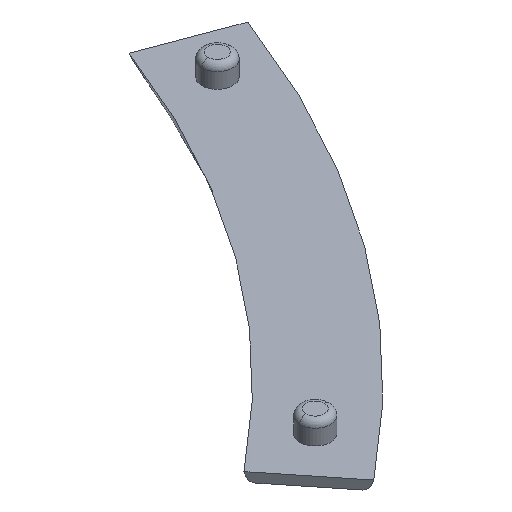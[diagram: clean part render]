
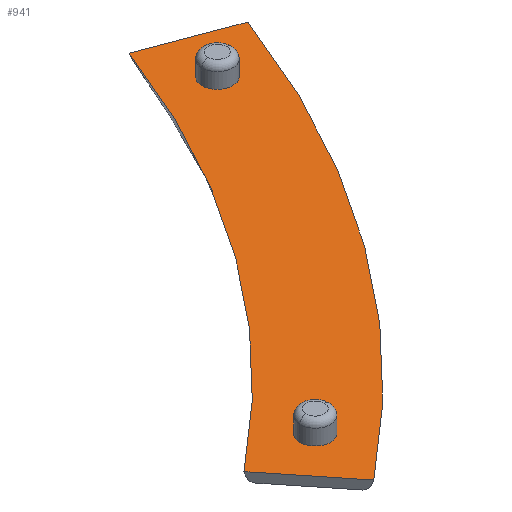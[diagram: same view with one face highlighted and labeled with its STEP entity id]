
A CAD part, isometric view. The second image highlights one B-rep face of the part: STEP entity #941.
In plain terms, the highlighted planar face has unit normal (0, 0, 1).
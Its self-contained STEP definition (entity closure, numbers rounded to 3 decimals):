
#835=VECTOR('Line Direction',#834,1.) ;
#882=VECTOR('Line Direction',#881,1.) ;
#806=DIRECTION('Axis2P3D Direction',(0.,0.,1.)) ;
#834=DIRECTION('Vector Direction',(-0.936,0.351,0.)) ;
#860=DIRECTION('Axis2P3D Direction',(0.,0.,1.)) ;
#881=DIRECTION('Vector Direction',(0.624,-0.782,0.)) ;
#895=DIRECTION('Axis2P3D Direction',(0.,0.,1.)) ;
#896=DIRECTION('Axis2P3D XDirection',(1.,0.,0.)) ;
#906=DIRECTION('Axis2P3D Direction',(0.,0.,1.)) ;
#915=DIRECTION('Axis2P3D Direction',(0.,0.,1.)) ;
#924=DIRECTION('Axis2P3D Direction',(0.,0.,1.)) ;
#933=DIRECTION('Axis2P3D Direction',(0.,0.,1.)) ;
#795=CARTESIAN_POINT('Vertex',(1222.19,-855.636,91.5)) ;
#802=CARTESIAN_POINT('Vertex',(1276.43,-780.981,91.5)) ;
#805=CARTESIAN_POINT('Axis2P3D Location',(1114.,-720.,91.5)) ;
#830=CARTESIAN_POINT('Vertex',(1262.387,-775.708,91.5)) ;
#833=CARTESIAN_POINT('Line Origine',(1269.409,-778.345,91.5)) ;
#856=CARTESIAN_POINT('Vertex',(1212.836,-843.91,91.5)) ;
#859=CARTESIAN_POINT('Axis2P3D Location',(1114.,-720.,91.5)) ;
#880=CARTESIAN_POINT('Line Origine',(1217.513,-849.773,91.5)) ;
#894=CARTESIAN_POINT('Axis2P3D Location',(0.,0.,91.5)) ;
#905=CARTESIAN_POINT('Axis2P3D Location',(1223.995,-844.327,91.5)) ;
#909=CARTESIAN_POINT('Vertex',(1221.495,-844.327,91.5)) ;
#911=CARTESIAN_POINT('Vertex',(1226.495,-844.327,91.5)) ;
#914=CARTESIAN_POINT('Axis2P3D Location',(1223.995,-844.327,91.5)) ;
#923=CARTESIAN_POINT('Axis2P3D Location',(1266.232,-786.192,91.5)) ;
#927=CARTESIAN_POINT('Vertex',(1263.732,-786.192,91.5)) ;
#929=CARTESIAN_POINT('Vertex',(1268.732,-786.192,91.5)) ;
#932=CARTESIAN_POINT('Axis2P3D Location',(1266.232,-786.192,91.5)) ;
#807=AXIS2_PLACEMENT_3D('Circle Axis2P3D',#805,#806,$) ;
#861=AXIS2_PLACEMENT_3D('Circle Axis2P3D',#859,#860,$) ;
#897=AXIS2_PLACEMENT_3D('Plane Axis2P3D',#894,#895,#896) ;
#907=AXIS2_PLACEMENT_3D('Circle Axis2P3D',#905,#906,$) ;
#916=AXIS2_PLACEMENT_3D('Circle Axis2P3D',#914,#915,$) ;
#925=AXIS2_PLACEMENT_3D('Circle Axis2P3D',#923,#924,$) ;
#934=AXIS2_PLACEMENT_3D('Circle Axis2P3D',#932,#933,$) ;
#922=FACE_BOUND('',#919,.T.) ;
#940=FACE_BOUND('',#937,.T.) ;
#809=EDGE_CURVE('',#796,#803,#808,.T.) ;
#837=EDGE_CURVE('',#803,#831,#836,.T.) ;
#863=EDGE_CURVE('',#831,#857,#862,.F.) ;
#884=EDGE_CURVE('',#857,#796,#883,.T.) ;
#913=EDGE_CURVE('',#910,#912,#908,.T.) ;
#918=EDGE_CURVE('',#912,#910,#917,.T.) ;
#931=EDGE_CURVE('',#928,#930,#926,.T.) ;
#936=EDGE_CURVE('',#930,#928,#935,.T.) ;
#898=PLANE('Plane',#897) ;
#900=ORIENTED_EDGE('',*,*,#809,.T.) ;
#901=ORIENTED_EDGE('',*,*,#837,.T.) ;
#902=ORIENTED_EDGE('',*,*,#863,.T.) ;
#903=ORIENTED_EDGE('',*,*,#884,.T.) ;
#920=ORIENTED_EDGE('',*,*,#913,.F.) ;
#921=ORIENTED_EDGE('',*,*,#918,.F.) ;
#938=ORIENTED_EDGE('',*,*,#931,.F.) ;
#939=ORIENTED_EDGE('',*,*,#936,.F.) ;
#836=LINE('Line',#833,#835) ;
#883=LINE('Line',#880,#882) ;
#941=ADVANCED_FACE('CNC 20240619',(#904,#922,#940),#898,.T.) ;
#808=CIRCLE('generated circle',#807,173.5) ;
#862=CIRCLE('generated circle',#861,158.5) ;
#908=CIRCLE('generated circle',#907,2.5) ;
#917=CIRCLE('generated circle',#916,2.5) ;
#926=CIRCLE('generated circle',#925,2.5) ;
#935=CIRCLE('generated circle',#934,2.5) ;
#796=VERTEX_POINT('',#795) ;
#803=VERTEX_POINT('',#802) ;
#831=VERTEX_POINT('',#830) ;
#857=VERTEX_POINT('',#856) ;
#910=VERTEX_POINT('',#909) ;
#912=VERTEX_POINT('',#911) ;
#928=VERTEX_POINT('',#927) ;
#930=VERTEX_POINT('',#929) ;
#899=EDGE_LOOP('',(#900,#901,#902,#903)) ;
#919=EDGE_LOOP('',(#920,#921)) ;
#937=EDGE_LOOP('',(#938,#939)) ;
#904=FACE_OUTER_BOUND('',#899,.T.) ;
